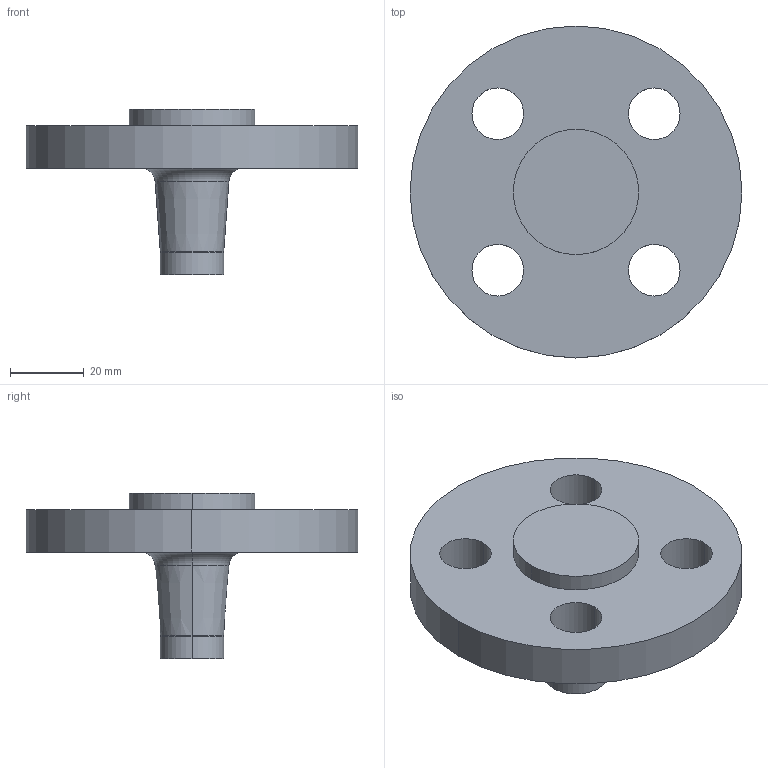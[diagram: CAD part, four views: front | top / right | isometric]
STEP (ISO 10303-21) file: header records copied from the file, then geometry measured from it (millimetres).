
FILE_DESCRIPTION (( 'STEP AP214' ), '1' );
FILE_NAME ('PN40 DN10 Type 21(ii) - Type E Face.STEP', '2018-12-29T05:05:01', ( '' ), ( '' ), 'SwSTEP 2.0', 'SolidWorks 2019', '' );
FILE_SCHEMA (( 'AUTOMOTIVE_DESIGN' ));
Length unit declared in the file: millimetre
Products named in the file (1): PN40 DN10 Type 21(ii) - Type E Face
Bounding box: 90 x 90 x 45 mm (x, y, z)
Volume: 78210.4 mm3; surface area: 18752.3 mm2
Topology: 1 solids, 1 shells, 24 faces, 54 edges, 34 vertices
Faces by surface type: cylinder 14, torus 4, plane 4, cone 2
Entity records: 738 total; most frequent: DIRECTION 142, CARTESIAN_POINT 113, ORIENTED_EDGE 108, AXIS2_PLACEMENT_3D 63, EDGE_CURVE 54, CIRCLE 38, VERTEX_POINT 34, EDGE_LOOP 34
